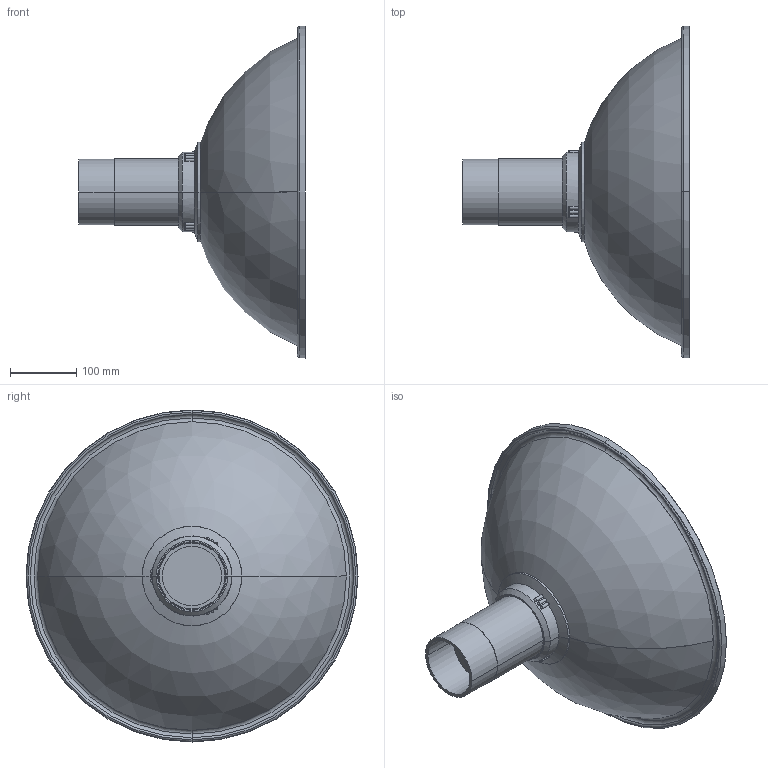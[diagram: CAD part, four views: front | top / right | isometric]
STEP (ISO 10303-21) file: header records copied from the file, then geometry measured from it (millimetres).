
FILE_DESCRIPTION((''),'2;1');
FILE_NAME('MEK500-100','2015-12-02T',('Tomas Bellgran'),(''),'PRO/ENGINEER BY PARAMETRIC TECHNOLOGY CORPORATION, 2013410','PRO/ENGINEER BY PARAMETRIC TECHNOLOGY CORPORATION, 2013410','');
FILE_SCHEMA(('AUTOMOTIVE_DESIGN { 1 0 10303 214 1 1 1 1 }'));
Length unit declared in the file: millimetre
Products named in the file (6): 105-878_AF0; 117041_AF0; 117016; 105-872; 117031; MEK500-100
Assembly tree (5 placements, depth 3):
  MEK500-100
    117016
      105-878_AF0
      117041_AF0
    105-872
    117031
Bounding box: 341.28 x 499.73 x 499.73 mm (x, y, z)
Volume: 1556651.1 mm3; surface area: 728836.9 mm2
Topology: 4 solids, 4 shells, 108 faces, 250 edges, 150 vertices
Faces by surface type: bspline 26, cylinder 23, cone 20, torus 18, plane 17, sphere 4
Entity records: 5896 total; most frequent: CARTESIAN_POINT 1692, DIRECTION 580, ORIENTED_EDGE 500, AXIS2_PLACEMENT_3D 273, EDGE_CURVE 250, PROPERTY_DEFINITION 243, REPRESENTATION 239, PROPERTY_DEFINITION_REPRESENTATION 239
